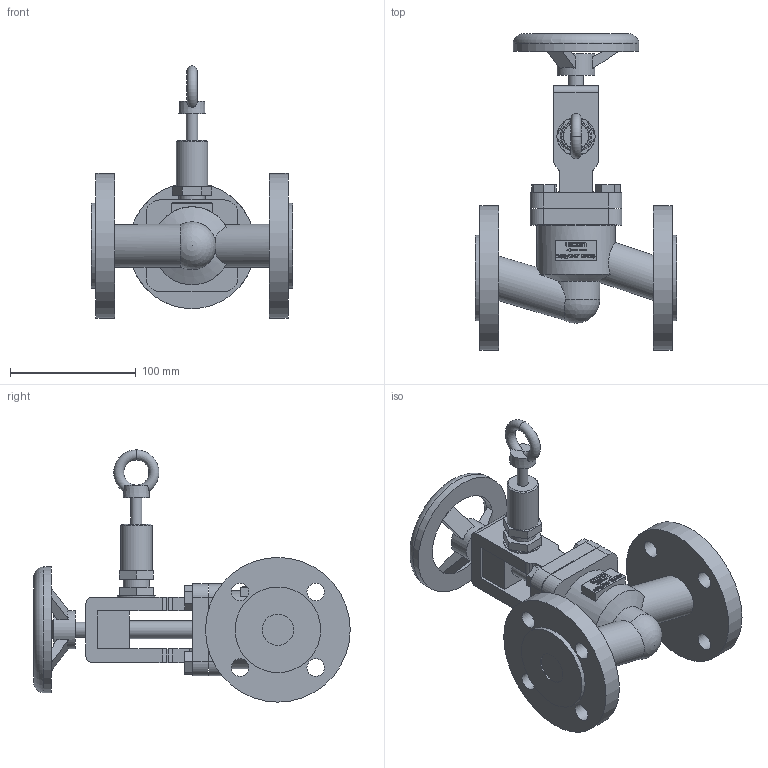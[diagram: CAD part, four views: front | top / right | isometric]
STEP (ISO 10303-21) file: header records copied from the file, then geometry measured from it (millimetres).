
FILE_DESCRIPTION(/* description */ (''),/* implementation_level */ '2;1');
FILE_NAME(/* name */ '100-247M-DN25-PN16.stp',/* time_stamp */ '2024-07-09T07:58:00+02:00',/* author */ ('roger.thijssen'),/* organization */ (''),/* preprocessor_version */ 'ST-DEVELOPER v20',/* originating_system */ 'Autodesk Inventor 2024',/* authorisation */ '');
FILE_SCHEMA (('AUTOMOTIVE_DESIGN { 1 0 10303 214 3 1 1 }'));
Length unit declared in the file: millimetre
Products named in the file (1): 100-247M-DN25-PN16
Bounding box: 160 x 251.5 x 200.5 mm (x, y, z)
Volume: 901905.1 mm3; surface area: 144046.7 mm2
Topology: 1 solids, 1 shells, 396 faces, 1058 edges, 700 vertices
Faces by surface type: plane 255, cylinder 68, bspline 65, cone 4, torus 3, sphere 1
Full cylindrical faces by diameter (mm): 9 x1, 12 x1, 14 x9, 21 x1, 25 x3, 30 x2, 34 x2, 56 x1, 62 x1, 68 x2, 100 x1, 115 x2
Entity records: 13580 total; most frequent: CARTESIAN_POINT 3452, ORIENTED_EDGE 2114, DIRECTION 1747, EDGE_CURVE 1057, LINE 723, VECTOR 723, VERTEX_POINT 700, AXIS2_PLACEMENT_3D 512
